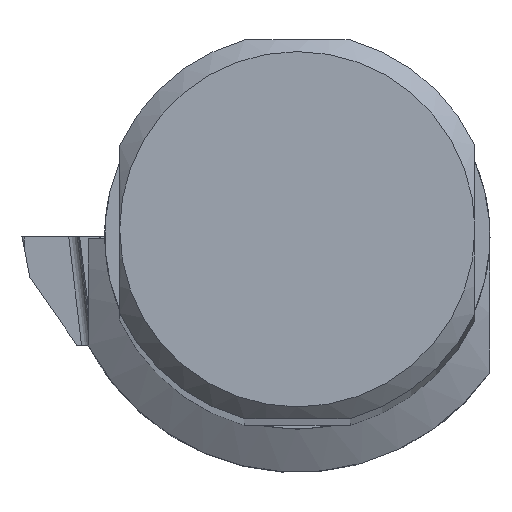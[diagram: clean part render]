
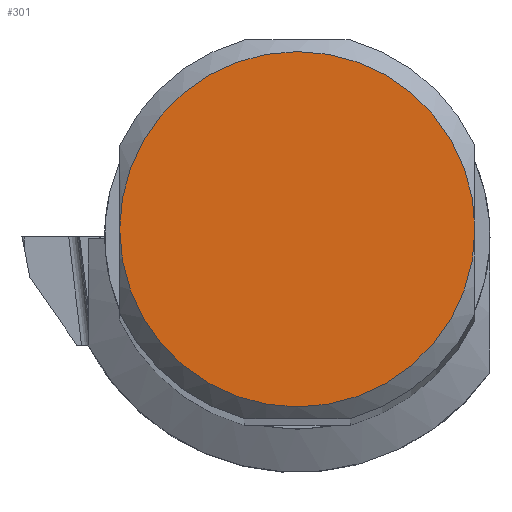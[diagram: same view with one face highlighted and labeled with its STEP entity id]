
A CAD part, top view. The second image highlights one B-rep face of the part: STEP entity #301.
In plain terms, the highlighted planar face has unit normal (0, 0, 1).
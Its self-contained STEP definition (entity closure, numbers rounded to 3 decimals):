
#80=PLANE('',#2906);
#163=FACE_OUTER_BOUND('',#557,.T.);
#301=ADVANCED_FACE('',(#163),#80,.T.);
#557=EDGE_LOOP('',(#790,#791));
#790=ORIENTED_EDGE('',*,*,#1838,.T.);
#791=ORIENTED_EDGE('',*,*,#1821,.T.);
#1540=VERTEX_POINT('',#4117);
#1544=VERTEX_POINT('',#4131);
#1821=EDGE_CURVE('',#1540,#1544,#2226,.T.);
#1838=EDGE_CURVE('',#1544,#1540,#2231,.T.);
#2226=CIRCLE('',#2893,14.34);
#2231=CIRCLE('',#2905,14.34);
#2893=AXIS2_PLACEMENT_3D('',#4132,#3249,#3250);
#2905=AXIS2_PLACEMENT_3D('',#4164,#3285,#3286);
#2906=AXIS2_PLACEMENT_3D('',#4165,#3287,#3288);
#3249=DIRECTION('',(0.,0.,1.));
#3250=DIRECTION('',(0.,-1.,0.));
#3285=DIRECTION('',(0.,0.,1.));
#3286=DIRECTION('',(0.,-1.,0.));
#3287=DIRECTION('',(0.,0.,1.));
#3288=DIRECTION('',(0.,-1.,0.));
#4117=CARTESIAN_POINT('',(14.34,0.,0.));
#4131=CARTESIAN_POINT('',(-14.34,0.,0.));
#4132=CARTESIAN_POINT('',(0.,0.,0.));
#4164=CARTESIAN_POINT('',(0.,0.,0.));
#4165=CARTESIAN_POINT('',(0.,0.,0.));
